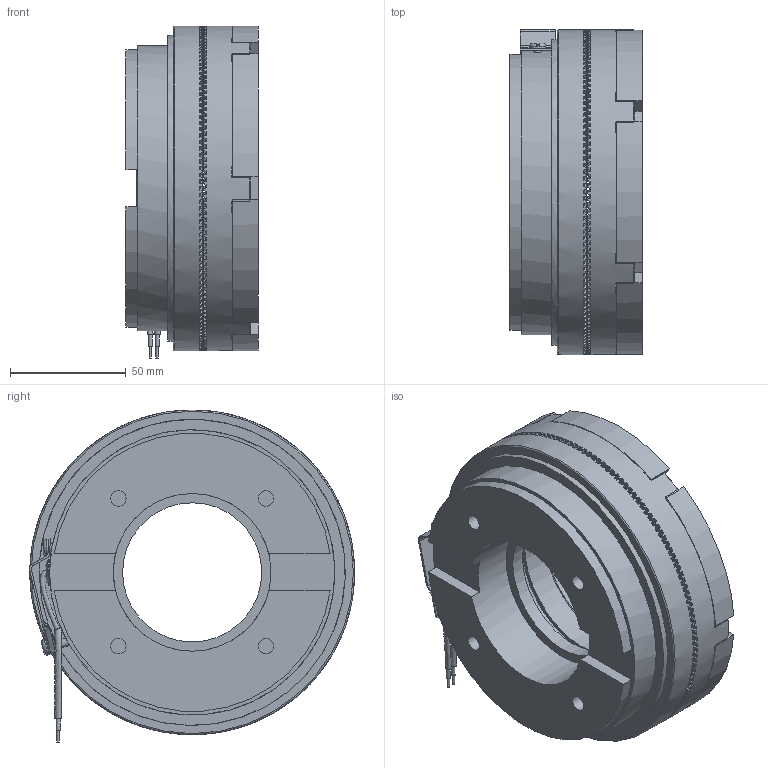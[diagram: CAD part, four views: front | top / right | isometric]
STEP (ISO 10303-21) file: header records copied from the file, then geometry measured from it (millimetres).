
FILE_DESCRIPTION(/* description */ (''),/* implementation_level */ '2;1');
FILE_NAME(/* name */ 'X:\INVENTOR\DISEGNI\07_Innesti_Elettmag_a_Dentini\07_09 EBLF_Z\07_09_140_01 EBLF140_Z\07_09_140_01 EBLF140_Z@STEP.stp',/* time_stamp */ '2017-04-12T12:07:35+02:00',/* author */ ('stefano'),/* organization */ (''),/* preprocessor_version */ 'ST-DEVELOPER v16.1',/* originating_system */ 'Autodesk Inventor 2016',/* authorisation */ '');
FILE_SCHEMA (('CONFIG_CONTROL_DESIGN'));
Products named in the file (1): 07_09_140_01 EBLF140_Z_Substitute_1
Bounding box: 57 x 140.17 x 143.15 mm (x, y, z)
Volume: 498002.1 mm3; surface area: 117249.2 mm2
Topology: 2 solids, 2 shells, 1562 faces, 4552 edges, 3016 vertices
Faces by surface type: plane 1421, cylinder 107, cone 19, bspline 10, torus 5
Full cylindrical faces by diameter (mm): 1.067 x2, 1.8 x2, 3.5 x2, 4 x3, 4.134 x3, 6.647 x4, 7 x2, 7.5 x3, 9 x1, 11 x1, 12.5 x3, 60 x1, 68 x1, 70 x3, 92 x2, 112 x2, 123 x1, 126 x1, 127 x1, 128 x1, 132 x1, 140 x2
Entity records: 55528 total; most frequent: CARTESIAN_POINT 10403, DIRECTION 10198, ORIENTED_EDGE 8964, EDGE_CURVE 4477, AXIS2_PLACEMENT_3D 4243, VERTEX_POINT 2995, ELLIPSE 1800, LINE 1712
